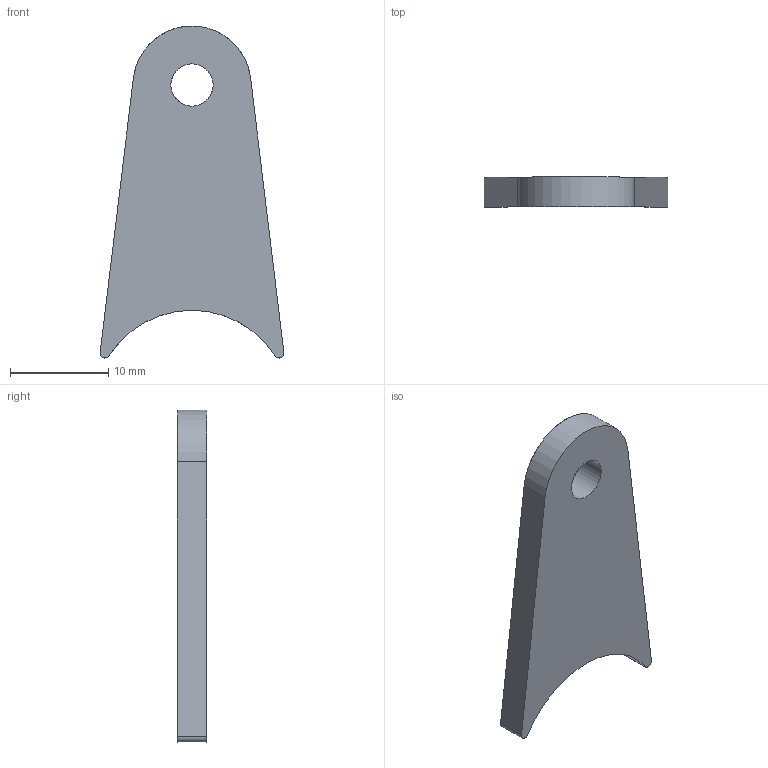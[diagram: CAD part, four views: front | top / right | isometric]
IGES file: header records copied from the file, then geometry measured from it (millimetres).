
Start section: START RECORD GO HERE.
Global section: file name: 20M_EN_04007 (chape reservoir 2).igs; native system: IBM CATIA IGES - CATIA Version 5 Release 19 ; preprocessor: CATIA Version 5 Release 19 ; author: Martin Kawczynski; organization: DESKTOP-UDLM1FC; date: 20200116.010051; units: millimetre
Bounding box: 18.7 x 3 x 33.78 mm (x, y, z)
Surface area: 1154.7 mm2 (no closed solid volume)
Topology: 0 solids, 0 shells, 10 faces, 48 edges, 48 vertices
Faces by surface type: revolution 6, plane 4
